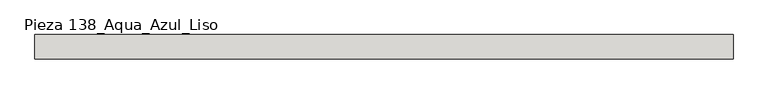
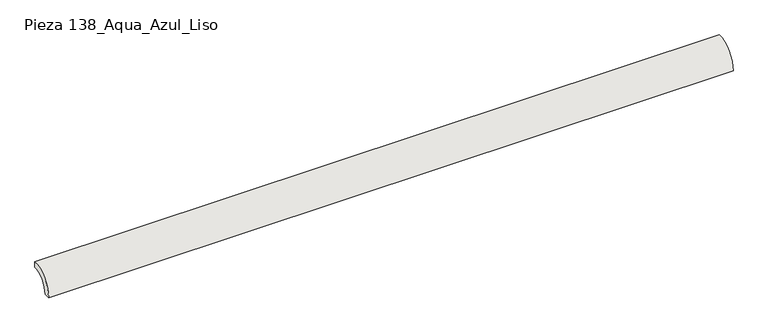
"""IFC4 building model written with IfcOpenShell, lengths in millimetres: slab geometry, ROSA GRES_138 : Pieza 138_Aqua_Azul_Liso."""

from ifc_helpers import new_model, si_unit, point, frame, frame_2d, origin, origin_2d, place, context, project, spatial, polyline, circle_curve, trimmed, segment, composite_curve, outline, extrude, source, transform, mapped, element, save


def pieza_138_aqua_azul_liso_495c5a5a(model_context):
    return source(origin(), model_context, "Body", "SweptSolid", [
        extrude(outline(composite_curve([segment(polyline([(0.0, 40.0), (0.0, 30.0265886)]), True, "CONTINUOUS"), segment(trimmed(circle_curve(frame_2d((-0.0044453, 0.0044453)), 30.0221435), [point((0.0, 30.0265886))], [point((-30.0265886, 0.0))], True, "CARTESIAN"), True, "CONTINUOUS"), segment(polyline([(-30.0265886, 0.0), (-40.0, 0.0)]), True, "CONTINUOUS"), segment(trimmed(circle_curve(origin_2d(), 40.0), [point((-40.0, 0.0))], [point((0.0, 40.0))], False, "CARTESIAN"), True, "CONTINUOUS")], self_intersect=False)), frame((0.0, 0.0, 0.0), z_axis=(1.0, 0.0, 0.0), x_axis=(0.0, 1.0, 0.0)), (0.0, 0.0, 1.0), 1154.1661296),
    ])


if __name__ == "__main__":
    model = new_model("IFC4")
    model_context = context("Model", 3, world=origin())
    ifc_project = project(units=[si_unit("LENGTHUNIT", "METRE", prefix="MILLI")], contexts=[model_context])
    site = spatial("IfcSite", under=ifc_project)
    building = spatial("IfcBuilding", under=site)
    placement = place(None, origin())
    pieza_138_aqua_azul_liso_shape = pieza_138_aqua_azul_liso_495c5a5a(model_context)
    element("IfcSlab", 1, ObjectType="ROSA GRES_138 : Pieza 138_Aqua_Azul_Liso", at=placement, inside=building, context=model_context, shape_type="MappedRepresentation", body=[
        mapped(pieza_138_aqua_azul_liso_shape, transform((0.0, 0.0, 0.0), x_axis=(1.0, 0.0, 0.0), y_axis=(0.0, 1.0, 0.0), z_axis=(0.0, 0.0, 1.0))),
    ])
    save(model, "model.ifc")
